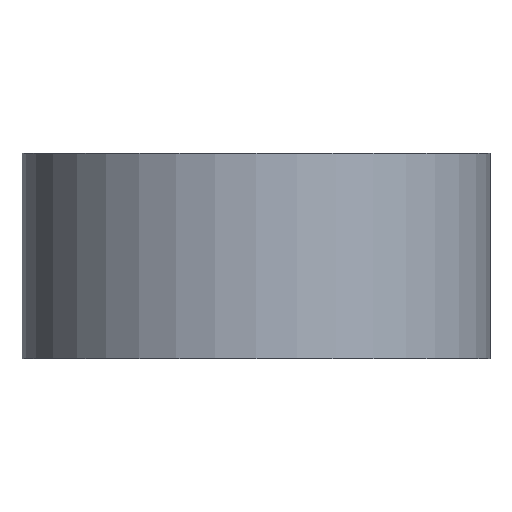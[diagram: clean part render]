
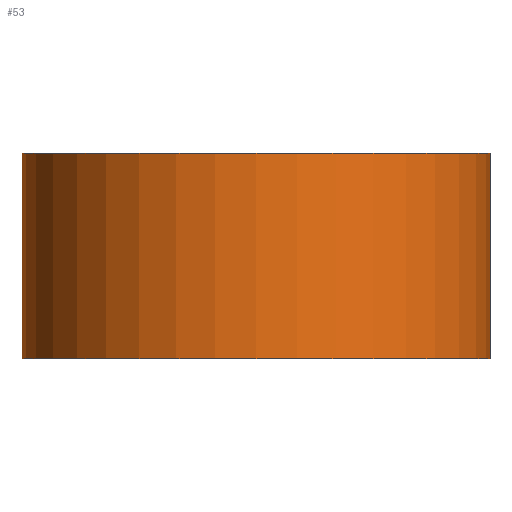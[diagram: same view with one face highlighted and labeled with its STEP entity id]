
A CAD part, front view. The second image highlights one B-rep face of the part: STEP entity #53.
In plain terms, the highlighted cylindrical face has radius 14.478 mm (diameter 28.956 mm), a full revolution.
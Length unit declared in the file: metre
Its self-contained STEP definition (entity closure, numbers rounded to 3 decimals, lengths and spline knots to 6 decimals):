
#16=ORIENTED_EDGE('',*,*,#24,.F.);
#17=ORIENTED_EDGE('',*,*,#25,.T.);
#24=EDGE_CURVE('',#28,#28,#32,.T.);
#25=EDGE_CURVE('',#29,#29,#33,.T.);
#28=VERTEX_POINT('',#103);
#29=VERTEX_POINT('',#105);
#32=CIRCLE('',#73,0.014478);
#33=CIRCLE('',#74,0.014478);
#36=EDGE_LOOP('',(#16));
#37=EDGE_LOOP('',(#17));
#44=FACE_BOUND('',#36,.T.);
#45=FACE_BOUND('',#37,.T.);
#51=CYLINDRICAL_SURFACE('',#72,0.014478);
#53=ADVANCED_FACE('',(#44,#45),#51,.T.);
#72=AXIS2_PLACEMENT_3D('',#101,#85,#86);
#73=AXIS2_PLACEMENT_3D('',#102,#87,#88);
#74=AXIS2_PLACEMENT_3D('',#104,#89,#90);
#85=DIRECTION('',(0.,0.,-1.));
#86=DIRECTION('',(-1.,0.,0.));
#87=DIRECTION('',(0.,0.,1.));
#88=DIRECTION('',(1.,0.,0.));
#89=DIRECTION('',(0.,0.,1.));
#90=DIRECTION('',(1.,0.,0.));
#101=CARTESIAN_POINT('',(0.,0.,0.0127));
#102=CARTESIAN_POINT('',(0.,0.,0.0127));
#103=CARTESIAN_POINT('',(0.014478,0.,0.0127));
#104=CARTESIAN_POINT('',(0.,0.,0.));
#105=CARTESIAN_POINT('',(0.014478,0.,0.));
